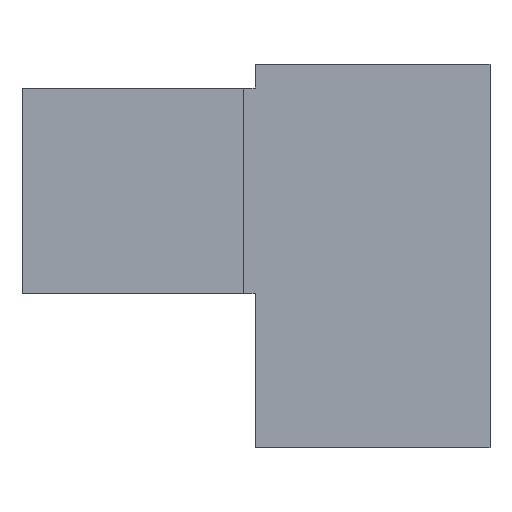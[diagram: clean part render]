
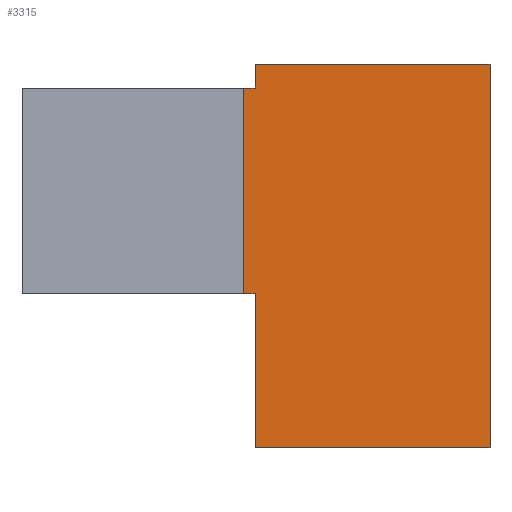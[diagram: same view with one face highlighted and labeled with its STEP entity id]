
A CAD part, front view. The second image highlights one B-rep face of the part: STEP entity #3315.
In plain terms, the highlighted planar face has unit normal (0, -1, 0).
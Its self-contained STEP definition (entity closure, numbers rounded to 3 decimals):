
#72 = PLANE('',#73);
#73 = AXIS2_PLACEMENT_3D('',#74,#75,#76);
#74 = CARTESIAN_POINT('',(114.,-13.,59.));
#75 = DIRECTION('',(0.,0.,1.));
#76 = DIRECTION('',(1.,0.,0.));
#126 = PLANE('',#127);
#127 = AXIS2_PLACEMENT_3D('',#128,#129,#130);
#128 = CARTESIAN_POINT('',(114.,-13.,85.));
#129 = DIRECTION('',(0.,0.,1.));
#130 = DIRECTION('',(1.,0.,0.));
#749 = PLANE('',#750);
#750 = AXIS2_PLACEMENT_3D('',#751,#752,#753);
#751 = CARTESIAN_POINT('',(143.5,15.2,39.5));
#752 = DIRECTION('',(1.,0.,0.));
#753 = DIRECTION('',(0.,0.,1.));
#777 = PLANE('',#778);
#778 = AXIS2_PLACEMENT_3D('',#779,#780,#781);
#779 = CARTESIAN_POINT('',(143.5,15.2,88.));
#780 = DIRECTION('',(0.,0.,1.));
#781 = DIRECTION('',(1.,0.,0.));
#833 = PLANE('',#834);
#834 = AXIS2_PLACEMENT_3D('',#835,#836,#837);
#835 = CARTESIAN_POINT('',(143.5,15.2,39.5));
#836 = DIRECTION('',(0.,0.,1.));
#837 = DIRECTION('',(1.,0.,0.));
#859 = PLANE('',#860);
#860 = AXIS2_PLACEMENT_3D('',#861,#862,#863);
#861 = CARTESIAN_POINT('',(143.5,15.2,39.5));
#862 = DIRECTION('',(1.,0.,0.));
#863 = DIRECTION('',(0.,0.,1.));
#874 = EDGE_CURVE('',#875,#877,#879,.T.);
#875 = VERTEX_POINT('',#876);
#876 = CARTESIAN_POINT('',(143.5,-15.2,39.5));
#877 = VERTEX_POINT('',#878);
#878 = CARTESIAN_POINT('',(143.5,-15.2,59.));
#879 = SURFACE_CURVE('',#880,(#884,#891),.PCURVE_S1.);
#880 = LINE('',#881,#882);
#881 = CARTESIAN_POINT('',(143.5,-15.2,39.5));
#882 = VECTOR('',#883,1.);
#883 = DIRECTION('',(0.,0.,1.));
#884 = PCURVE('',#859,#885);
#885 = DEFINITIONAL_REPRESENTATION('',(#886),#890);
#886 = LINE('',#887,#888);
#887 = CARTESIAN_POINT('',(0.,30.4));
#888 = VECTOR('',#889,1.);
#889 = DIRECTION('',(1.,0.));
#890 = ( GEOMETRIC_REPRESENTATION_CONTEXT(2) 
PARAMETRIC_REPRESENTATION_CONTEXT() REPRESENTATION_CONTEXT('2D SPACE',''
  ) );
#891 = PCURVE('',#892,#897);
#892 = PLANE('',#893);
#893 = AXIS2_PLACEMENT_3D('',#894,#895,#896);
#894 = CARTESIAN_POINT('',(142.,-15.2,59.));
#895 = DIRECTION('',(0.,1.,0.));
#896 = DIRECTION('',(0.,0.,1.));
#897 = DEFINITIONAL_REPRESENTATION('',(#898),#902);
#898 = LINE('',#899,#900);
#899 = CARTESIAN_POINT('',(-19.5,1.5));
#900 = VECTOR('',#901,1.);
#901 = DIRECTION('',(1.,0.));
#902 = ( GEOMETRIC_REPRESENTATION_CONTEXT(2) 
PARAMETRIC_REPRESENTATION_CONTEXT() REPRESENTATION_CONTEXT('2D SPACE',''
  ) );
#2812 = PLANE('',#2813);
#2813 = AXIS2_PLACEMENT_3D('',#2814,#2815,#2816);
#2814 = CARTESIAN_POINT('',(173.2,15.2,39.5));
#2815 = DIRECTION('',(1.,0.,0.));
#2816 = DIRECTION('',(0.,0.,1.));
#2828 = VERTEX_POINT('',#2829);
#2829 = CARTESIAN_POINT('',(173.2,-15.2,39.5));
#2903 = VERTEX_POINT('',#2904);
#2904 = CARTESIAN_POINT('',(173.2,-15.2,88.));
#2925 = EDGE_CURVE('',#2828,#2903,#2926,.T.);
#2926 = SURFACE_CURVE('',#2927,(#2931,#2938),.PCURVE_S1.);
#2927 = LINE('',#2928,#2929);
#2928 = CARTESIAN_POINT('',(173.2,-15.2,39.5));
#2929 = VECTOR('',#2930,1.);
#2930 = DIRECTION('',(0.,0.,1.));
#2931 = PCURVE('',#2812,#2932);
#2932 = DEFINITIONAL_REPRESENTATION('',(#2933),#2937);
#2933 = LINE('',#2934,#2935);
#2934 = CARTESIAN_POINT('',(0.,30.4));
#2935 = VECTOR('',#2936,1.);
#2936 = DIRECTION('',(1.,0.));
#2937 = ( GEOMETRIC_REPRESENTATION_CONTEXT(2) 
PARAMETRIC_REPRESENTATION_CONTEXT() REPRESENTATION_CONTEXT('2D SPACE',''
  ) );
#2938 = PCURVE('',#892,#2939);
#2939 = DEFINITIONAL_REPRESENTATION('',(#2940),#2944);
#2940 = LINE('',#2941,#2942);
#2941 = CARTESIAN_POINT('',(-19.5,31.2));
#2942 = VECTOR('',#2943,1.);
#2943 = DIRECTION('',(1.,0.));
#2944 = ( GEOMETRIC_REPRESENTATION_CONTEXT(2) 
PARAMETRIC_REPRESENTATION_CONTEXT() REPRESENTATION_CONTEXT('2D SPACE',''
  ) );
#3315 = ADVANCED_FACE('',(#3316),#892,.F.);
#3316 = FACE_BOUND('',#3317,.F.);
#3317 = EDGE_LOOP('',(#3318,#3341,#3369,#3392,#3415,#3436,#3437,#3458));
#3318 = ORIENTED_EDGE('',*,*,#3319,.F.);
#3319 = EDGE_CURVE('',#3320,#877,#3322,.T.);
#3320 = VERTEX_POINT('',#3321);
#3321 = CARTESIAN_POINT('',(142.,-15.2,59.));
#3322 = SURFACE_CURVE('',#3323,(#3327,#3334),.PCURVE_S1.);
#3323 = LINE('',#3324,#3325);
#3324 = CARTESIAN_POINT('',(142.,-15.2,59.));
#3325 = VECTOR('',#3326,1.);
#3326 = DIRECTION('',(1.,0.,0.));
#3327 = PCURVE('',#892,#3328);
#3328 = DEFINITIONAL_REPRESENTATION('',(#3329),#3333);
#3329 = LINE('',#3330,#3331);
#3330 = CARTESIAN_POINT('',(0.,0.));
#3331 = VECTOR('',#3332,1.);
#3332 = DIRECTION('',(0.,1.));
#3333 = ( GEOMETRIC_REPRESENTATION_CONTEXT(2) 
PARAMETRIC_REPRESENTATION_CONTEXT() REPRESENTATION_CONTEXT('2D SPACE',''
  ) );
#3334 = PCURVE('',#72,#3335);
#3335 = DEFINITIONAL_REPRESENTATION('',(#3336),#3340);
#3336 = LINE('',#3337,#3338);
#3337 = CARTESIAN_POINT('',(28.,-2.2));
#3338 = VECTOR('',#3339,1.);
#3339 = DIRECTION('',(1.,0.));
#3340 = ( GEOMETRIC_REPRESENTATION_CONTEXT(2) 
PARAMETRIC_REPRESENTATION_CONTEXT() REPRESENTATION_CONTEXT('2D SPACE',''
  ) );
#3341 = ORIENTED_EDGE('',*,*,#3342,.T.);
#3342 = EDGE_CURVE('',#3320,#3343,#3345,.T.);
#3343 = VERTEX_POINT('',#3344);
#3344 = CARTESIAN_POINT('',(142.,-15.2,85.));
#3345 = SURFACE_CURVE('',#3346,(#3350,#3357),.PCURVE_S1.);
#3346 = LINE('',#3347,#3348);
#3347 = CARTESIAN_POINT('',(142.,-15.2,59.));
#3348 = VECTOR('',#3349,1.);
#3349 = DIRECTION('',(0.,0.,1.));
#3350 = PCURVE('',#892,#3351);
#3351 = DEFINITIONAL_REPRESENTATION('',(#3352),#3356);
#3352 = LINE('',#3353,#3354);
#3353 = CARTESIAN_POINT('',(0.,0.));
#3354 = VECTOR('',#3355,1.);
#3355 = DIRECTION('',(1.,0.));
#3356 = ( GEOMETRIC_REPRESENTATION_CONTEXT(2) 
PARAMETRIC_REPRESENTATION_CONTEXT() REPRESENTATION_CONTEXT('2D SPACE',''
  ) );
#3357 = PCURVE('',#3358,#3363);
#3358 = PLANE('',#3359);
#3359 = AXIS2_PLACEMENT_3D('',#3360,#3361,#3362);
#3360 = CARTESIAN_POINT('',(142.,-15.2,59.));
#3361 = DIRECTION('',(1.,0.,0.));
#3362 = DIRECTION('',(0.,0.,1.));
#3363 = DEFINITIONAL_REPRESENTATION('',(#3364),#3368);
#3364 = LINE('',#3365,#3366);
#3365 = CARTESIAN_POINT('',(0.,0.));
#3366 = VECTOR('',#3367,1.);
#3367 = DIRECTION('',(1.,0.));
#3368 = ( GEOMETRIC_REPRESENTATION_CONTEXT(2) 
PARAMETRIC_REPRESENTATION_CONTEXT() REPRESENTATION_CONTEXT('2D SPACE',''
  ) );
#3369 = ORIENTED_EDGE('',*,*,#3370,.T.);
#3370 = EDGE_CURVE('',#3343,#3371,#3373,.T.);
#3371 = VERTEX_POINT('',#3372);
#3372 = CARTESIAN_POINT('',(143.5,-15.2,85.));
#3373 = SURFACE_CURVE('',#3374,(#3378,#3385),.PCURVE_S1.);
#3374 = LINE('',#3375,#3376);
#3375 = CARTESIAN_POINT('',(142.,-15.2,85.));
#3376 = VECTOR('',#3377,1.);
#3377 = DIRECTION('',(1.,0.,0.));
#3378 = PCURVE('',#892,#3379);
#3379 = DEFINITIONAL_REPRESENTATION('',(#3380),#3384);
#3380 = LINE('',#3381,#3382);
#3381 = CARTESIAN_POINT('',(26.,0.));
#3382 = VECTOR('',#3383,1.);
#3383 = DIRECTION('',(0.,1.));
#3384 = ( GEOMETRIC_REPRESENTATION_CONTEXT(2) 
PARAMETRIC_REPRESENTATION_CONTEXT() REPRESENTATION_CONTEXT('2D SPACE',''
  ) );
#3385 = PCURVE('',#126,#3386);
#3386 = DEFINITIONAL_REPRESENTATION('',(#3387),#3391);
#3387 = LINE('',#3388,#3389);
#3388 = CARTESIAN_POINT('',(28.,-2.2));
#3389 = VECTOR('',#3390,1.);
#3390 = DIRECTION('',(1.,0.));
#3391 = ( GEOMETRIC_REPRESENTATION_CONTEXT(2) 
PARAMETRIC_REPRESENTATION_CONTEXT() REPRESENTATION_CONTEXT('2D SPACE',''
  ) );
#3392 = ORIENTED_EDGE('',*,*,#3393,.T.);
#3393 = EDGE_CURVE('',#3371,#3394,#3396,.T.);
#3394 = VERTEX_POINT('',#3395);
#3395 = CARTESIAN_POINT('',(143.5,-15.2,88.));
#3396 = SURFACE_CURVE('',#3397,(#3401,#3408),.PCURVE_S1.);
#3397 = LINE('',#3398,#3399);
#3398 = CARTESIAN_POINT('',(143.5,-15.2,39.5));
#3399 = VECTOR('',#3400,1.);
#3400 = DIRECTION('',(0.,0.,1.));
#3401 = PCURVE('',#892,#3402);
#3402 = DEFINITIONAL_REPRESENTATION('',(#3403),#3407);
#3403 = LINE('',#3404,#3405);
#3404 = CARTESIAN_POINT('',(-19.5,1.5));
#3405 = VECTOR('',#3406,1.);
#3406 = DIRECTION('',(1.,0.));
#3407 = ( GEOMETRIC_REPRESENTATION_CONTEXT(2) 
PARAMETRIC_REPRESENTATION_CONTEXT() REPRESENTATION_CONTEXT('2D SPACE',''
  ) );
#3408 = PCURVE('',#749,#3409);
#3409 = DEFINITIONAL_REPRESENTATION('',(#3410),#3414);
#3410 = LINE('',#3411,#3412);
#3411 = CARTESIAN_POINT('',(0.,30.4));
#3412 = VECTOR('',#3413,1.);
#3413 = DIRECTION('',(1.,0.));
#3414 = ( GEOMETRIC_REPRESENTATION_CONTEXT(2) 
PARAMETRIC_REPRESENTATION_CONTEXT() REPRESENTATION_CONTEXT('2D SPACE',''
  ) );
#3415 = ORIENTED_EDGE('',*,*,#3416,.T.);
#3416 = EDGE_CURVE('',#3394,#2903,#3417,.T.);
#3417 = SURFACE_CURVE('',#3418,(#3422,#3429),.PCURVE_S1.);
#3418 = LINE('',#3419,#3420);
#3419 = CARTESIAN_POINT('',(143.5,-15.2,88.));
#3420 = VECTOR('',#3421,1.);
#3421 = DIRECTION('',(1.,0.,0.));
#3422 = PCURVE('',#892,#3423);
#3423 = DEFINITIONAL_REPRESENTATION('',(#3424),#3428);
#3424 = LINE('',#3425,#3426);
#3425 = CARTESIAN_POINT('',(29.,1.5));
#3426 = VECTOR('',#3427,1.);
#3427 = DIRECTION('',(0.,1.));
#3428 = ( GEOMETRIC_REPRESENTATION_CONTEXT(2) 
PARAMETRIC_REPRESENTATION_CONTEXT() REPRESENTATION_CONTEXT('2D SPACE',''
  ) );
#3429 = PCURVE('',#777,#3430);
#3430 = DEFINITIONAL_REPRESENTATION('',(#3431),#3435);
#3431 = LINE('',#3432,#3433);
#3432 = CARTESIAN_POINT('',(0.,-30.4));
#3433 = VECTOR('',#3434,1.);
#3434 = DIRECTION('',(1.,0.));
#3435 = ( GEOMETRIC_REPRESENTATION_CONTEXT(2) 
PARAMETRIC_REPRESENTATION_CONTEXT() REPRESENTATION_CONTEXT('2D SPACE',''
  ) );
#3436 = ORIENTED_EDGE('',*,*,#2925,.F.);
#3437 = ORIENTED_EDGE('',*,*,#3438,.F.);
#3438 = EDGE_CURVE('',#875,#2828,#3439,.T.);
#3439 = SURFACE_CURVE('',#3440,(#3444,#3451),.PCURVE_S1.);
#3440 = LINE('',#3441,#3442);
#3441 = CARTESIAN_POINT('',(143.5,-15.2,39.5));
#3442 = VECTOR('',#3443,1.);
#3443 = DIRECTION('',(1.,0.,0.));
#3444 = PCURVE('',#892,#3445);
#3445 = DEFINITIONAL_REPRESENTATION('',(#3446),#3450);
#3446 = LINE('',#3447,#3448);
#3447 = CARTESIAN_POINT('',(-19.5,1.5));
#3448 = VECTOR('',#3449,1.);
#3449 = DIRECTION('',(0.,1.));
#3450 = ( GEOMETRIC_REPRESENTATION_CONTEXT(2) 
PARAMETRIC_REPRESENTATION_CONTEXT() REPRESENTATION_CONTEXT('2D SPACE',''
  ) );
#3451 = PCURVE('',#833,#3452);
#3452 = DEFINITIONAL_REPRESENTATION('',(#3453),#3457);
#3453 = LINE('',#3454,#3455);
#3454 = CARTESIAN_POINT('',(0.,-30.4));
#3455 = VECTOR('',#3456,1.);
#3456 = DIRECTION('',(1.,0.));
#3457 = ( GEOMETRIC_REPRESENTATION_CONTEXT(2) 
PARAMETRIC_REPRESENTATION_CONTEXT() REPRESENTATION_CONTEXT('2D SPACE',''
  ) );
#3458 = ORIENTED_EDGE('',*,*,#874,.T.);
